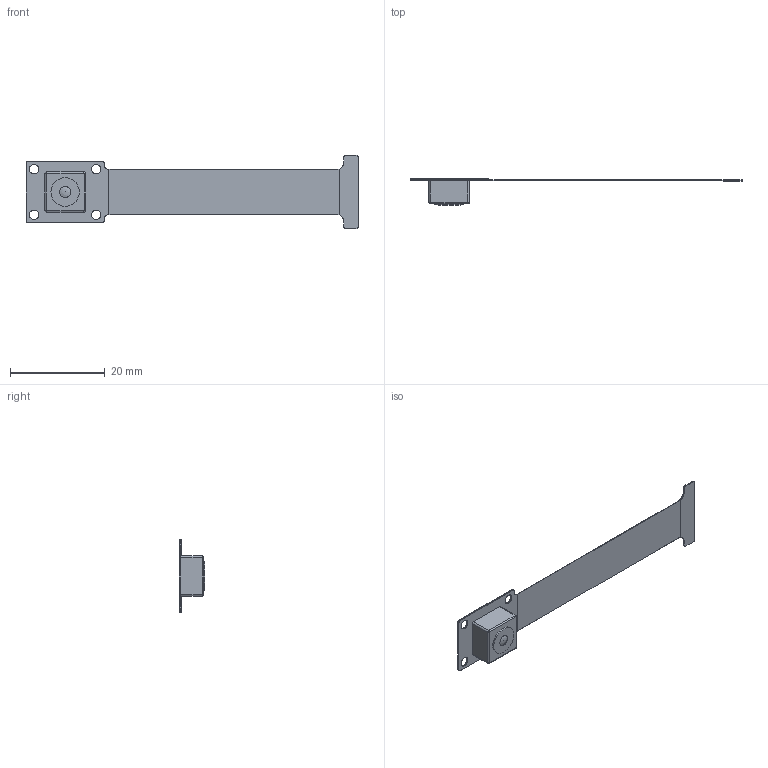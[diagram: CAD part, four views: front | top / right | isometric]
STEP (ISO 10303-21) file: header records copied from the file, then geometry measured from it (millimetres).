
FILE_DESCRIPTION (( 'STEP AP203' ), '1' );
FILE_NAME ('IMX214_Camera_08_Oct_2019.STEP', '2019-10-08T06:39:50', ( '' ), ( '' ), 'SwSTEP 2.0', 'SolidWorks 2018', '' );
FILE_SCHEMA (( 'CONFIG_CONTROL_DESIGN' ));
Length unit declared in the file: millimetre
Products named in the file (1): IMX214_Camera_08_Oct_2019
Bounding box: 70 x 5.47 x 15.5 mm (x, y, z)
Volume: 495.6 mm3; surface area: 2391.6 mm2
Topology: 6 solids, 6 shells, 95 faces, 241 edges, 158 vertices
Faces by surface type: cylinder 50, plane 40, torus 4, sphere 1
Entity records: 2971 total; most frequent: DIRECTION 534, CARTESIAN_POINT 490, ORIENTED_EDGE 476, EDGE_CURVE 238, AXIS2_PLACEMENT_3D 200, VERTEX_POINT 156, LINE 134, VECTOR 134
